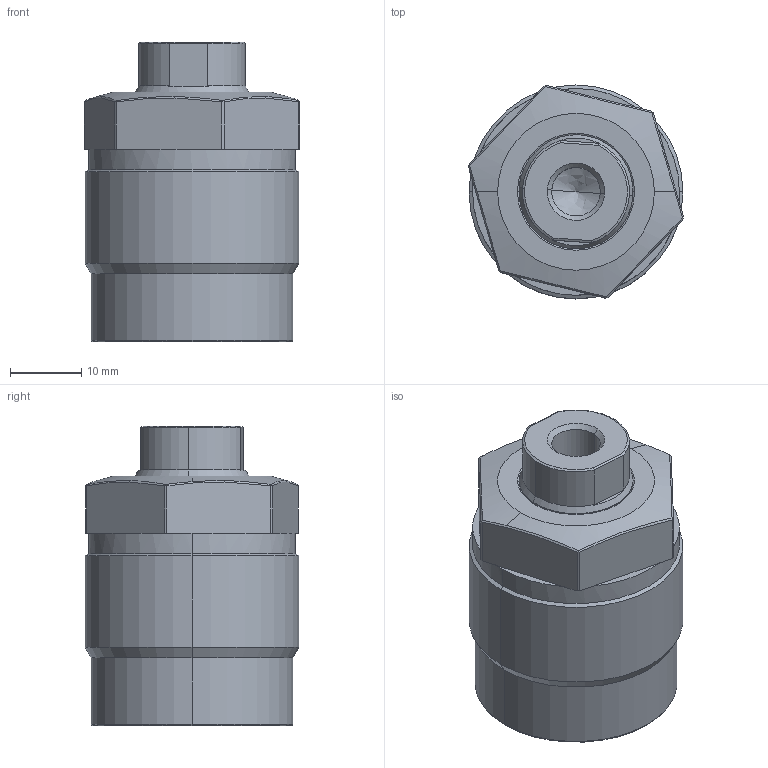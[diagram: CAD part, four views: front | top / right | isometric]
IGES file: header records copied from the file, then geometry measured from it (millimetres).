
Start section: SolidWorks IGES file using analytic representation for surfaces
Global section: file name: F:\THREADED BODY PUSHER-STD\TO3C-M303-S.IGS; native system: SolidWorks 2019; preprocessor: SolidWorks 2019; author: ADMIN; date: 200710.084237; units: millimetre
Bounding box: 30.17 x 30 x 42 mm (x, y, z)
Volume: 22719.2 mm3; surface area: 7984.9 mm2
Topology: 2 solids, 2 shells, 88 faces, 200 edges, 119 vertices
Faces by surface type: revolution 44, plane 38, bspline 6
